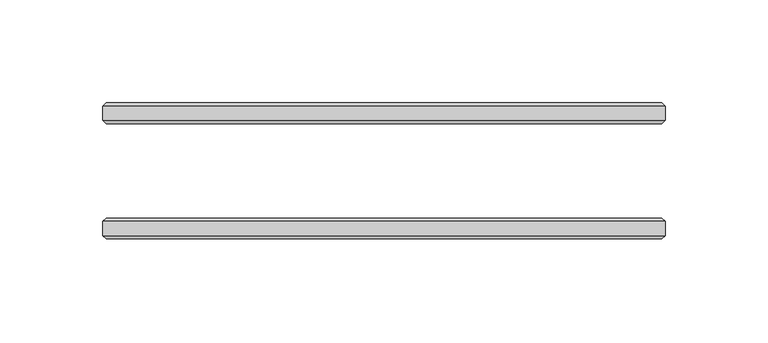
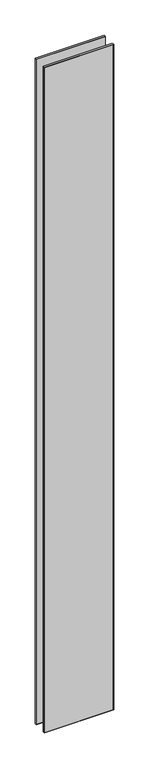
"""IFC4 building model written with IfcOpenShell, lengths in millimetres: plate geometry, 10-AMG-2-Панель двойной витраж10 : Стекло 10mm."""

from ifc_helpers import new_model, si_unit, origin, place, context, project, spatial, faceted_brep, source, transform, mapped, element, save


def plate_7cb57ac8(model_context):
    return source(origin(), model_context, "Body", "Brep", [
        faceted_brep([(136.5, -31.4961653, 2758.0), (136.5, -24.5038347, 2758.0), (-136.5, -24.5038347, 2758.0), (-136.5, -31.4961653, 2758.0), (136.5, -24.5038347, -20.0), (136.5, -31.4961653, -20.0), (-136.5, -31.4961653, -20.0), (-136.5, -24.5038347, -20.0), (-134.9961653, -23.0, 2756.4961653), (134.9961653, -23.0, 2756.4961653), (134.9961653, -23.0, -18.5039422), (-134.9961653, -23.0, -18.5039422), (134.9961653, -33.0, 2756.4961653), (-134.9961653, -33.0, 2756.4961653), (-134.9961653, -33.0, -18.4961653), (134.9961653, -33.0, -18.4961653)], [[[0, 1, 2, 3]], [[4, 5, 6, 7]], [[8, 9, 10, 11]], [[3, 2, 7, 6]], [[12, 13, 14, 15]], [[1, 0, 5, 4]], [[1, 4, 10, 9]], [[5, 0, 12, 15]], [[0, 3, 13, 12]], [[2, 1, 9, 8]], [[7, 2, 8, 11]], [[3, 6, 14, 13]], [[6, 5, 15, 14]], [[4, 7, 11, 10]]]),
        faceted_brep([(136.5, 24.5038347, 2758.0), (136.5, 31.4961653, 2758.0), (-136.5, 31.4961653, 2758.0), (-136.5, 24.5038347, 2758.0), (136.5, 31.4961653, -20.0), (136.5, 24.5038347, -20.0), (-136.5, 24.5038347, -20.0), (-136.5, 31.4961653, -20.0), (-134.9961653, 33.0, 2756.4961653), (134.9961653, 33.0, 2756.4961653), (134.9961653, 33.0, -18.5039422), (-134.9961653, 33.0, -18.5039422), (134.9961653, 23.0, 2756.4961653), (-134.9961653, 23.0, 2756.4961653), (-134.9961653, 23.0, -18.4961653), (134.9961653, 23.0, -18.4961653)], [[[0, 1, 2, 3]], [[4, 5, 6, 7]], [[8, 9, 10, 11]], [[3, 2, 7, 6]], [[12, 13, 14, 15]], [[1, 0, 5, 4]], [[1, 4, 10, 9]], [[5, 0, 12, 15]], [[7, 2, 8, 11]], [[3, 6, 14, 13]], [[0, 3, 13, 12]], [[2, 1, 9, 8]], [[6, 5, 15, 14]], [[4, 7, 11, 10]]]),
    ])


if __name__ == "__main__":
    model = new_model("IFC4")
    model_context = context("Model", 3, world=origin())
    ifc_project = project(units=[si_unit("LENGTHUNIT", "METRE", prefix="MILLI")], contexts=[model_context])
    site = spatial("IfcSite", under=ifc_project)
    building = spatial("IfcBuilding", under=site)
    placement = place(None, origin())
    plate_shape = plate_7cb57ac8(model_context)
    element("IfcPlate", 1, ObjectType="10-AMG-2-Панель двойной витраж10 : Стекло 10mm", at=placement, inside=building, context=model_context, shape_type="MappedRepresentation", body=[
        mapped(plate_shape, transform((0.0, 0.0, 0.0), x_axis=(1.0, 0.0, 0.0), y_axis=(0.0, 1.0, 0.0), z_axis=(0.0, 0.0, 1.0))),
    ])
    save(model, "model.ifc")
